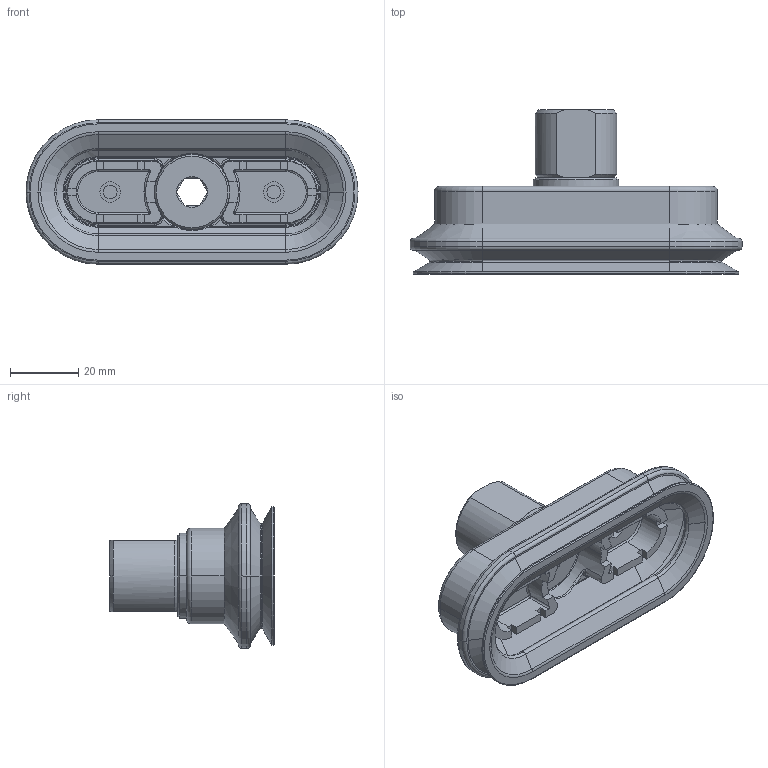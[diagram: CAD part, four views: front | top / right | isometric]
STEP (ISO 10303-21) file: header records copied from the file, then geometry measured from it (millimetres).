
FILE_DESCRIPTION (( 'STEP AP214' ), '1' );
FILE_NAME ('VOB40X95P-3060-G38F.STEP', '2025-11-10T13:49:03', ( '' ), ( '' ), 'SwSTEP 2.0', 'SolidWorks 2025', '' );
FILE_SCHEMA (( 'AUTOMOTIVE_DESIGN' ));
Length unit declared in the file: inch
Products named in the file (4): OV4095-01-G3F.STEP; VOB40X95P-3060-G38F; oring21.25-17-2.2.STEP; OV4095_wo_fitting.STEP
Assembly tree (3 placements, depth 3):
  VOB40X95P-3060-G38F
    OV4095-01-G3F.STEP
      OV4095_wo_fitting.STEP
      oring21.25-17-2.2.STEP
Bounding box: 97.4 x 48.25 x 42.4 mm (x, y, z)
Volume: 41571.3 mm3; surface area: 32589.2 mm2
Topology: 7 solids, 7 shells, 360 faces, 893 edges, 543 vertices
Faces by surface type: plane 118, cylinder 95, cone 62, torus 53, bspline 26, sphere 6
Entity records: 12477 total; most frequent: CARTESIAN_POINT 3726, DIRECTION 1887, ORIENTED_EDGE 1766, EDGE_CURVE 883, AXIS2_PLACEMENT_3D 751, VERTEX_POINT 543, CIRCLE 410, EDGE_LOOP 388
